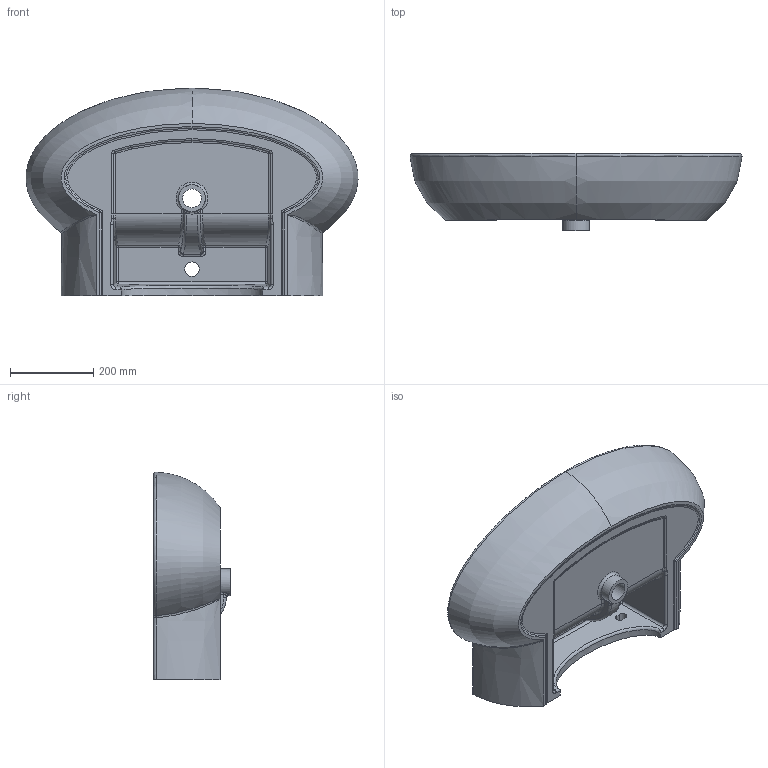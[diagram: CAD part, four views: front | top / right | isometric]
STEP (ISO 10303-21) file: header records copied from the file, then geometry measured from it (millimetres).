
FILE_DESCRIPTION(/* description */ (''),/* implementation_level */ '2;1');
FILE_NAME(/* name */ 'C:\Users\m.cicconi\Desktop\AZZURRA 3D\07 COMODA\LAVABI COMODA\COMODA LAVABI STEP\COM80_S.stp',/* time_stamp */ '2017-12-20T12:06:08+01:00',/* author */ ('m.cicconi'),/* organization */ (''),/* preprocessor_version */ 'ST-DEVELOPER v16.1',/* originating_system */ 'Autodesk Inventor 2016',/* authorisation */ '');
FILE_SCHEMA (('AUTOMOTIVE_DESIGN { 1 0 10303 214 3 1 1 }'));
Length unit declared in the file: metre
Products named in the file (1): COM80_S
Bounding box: 799.69 x 185 x 499.9 mm (x, y, z)
Volume: 22555029.7 mm3; surface area: 1102536.2 mm2
Topology: 1 solids, 1 shells, 133 faces, 317 edges, 185 vertices
Faces by surface type: bspline 62, cylinder 34, plane 19, sphere 12, torus 5, cone 1
Full cylindrical faces by diameter (mm): 35 x1, 45 x1, 65 x1
Entity records: 18378 total; most frequent: CARTESIAN_POINT 15663, ORIENTED_EDGE 616, DIRECTION 479, EDGE_CURVE 308, AXIS2_PLACEMENT_3D 200, VERTEX_POINT 182, EDGE_LOOP 146, FACE_OUTER_BOUND 133
